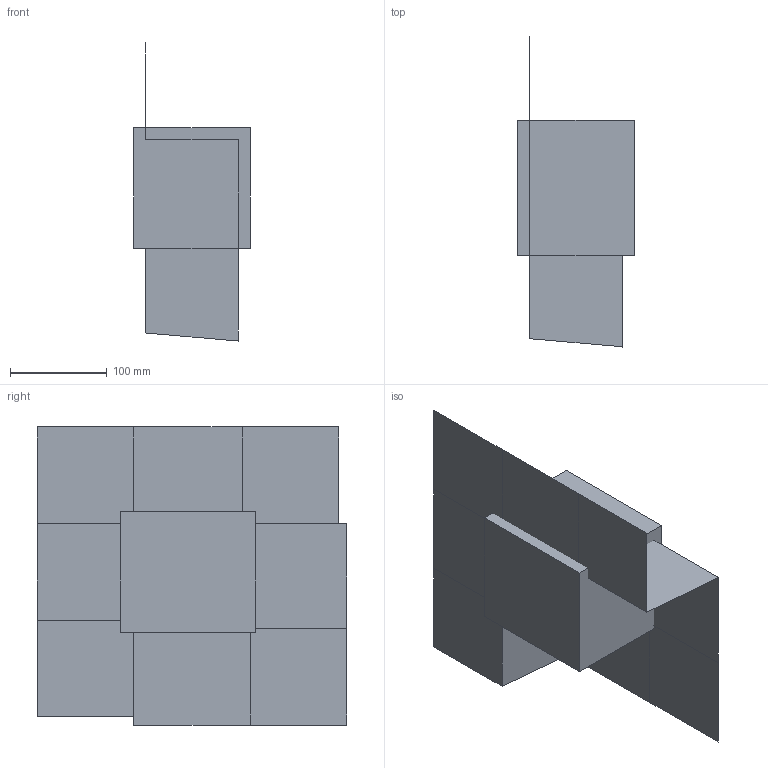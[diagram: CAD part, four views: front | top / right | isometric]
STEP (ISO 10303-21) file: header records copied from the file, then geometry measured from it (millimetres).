
FILE_DESCRIPTION(('CATIA V5 STEP Exchange'),'2;1');
FILE_NAME('C:\_Andres\UNIVERSIDAD\IQS\ASIGNATURAS\DAO\EXF\EXF-15161c\1original\Garcia_Granada_Ej02-moldes_v30.stp','2016-03-04T15:45:47+00:00',('none'),('none'),'CATIA Version 5 Release 20 SP 1 (IN-10)','CATIA V5 STEP AP203','none');
FILE_SCHEMA(('CONFIG_CONTROL_DESIGN'));
Length unit declared in the file: millimetre
Products named in the file (1): Garcia_Granada_Ej02-moldes_v30
Bounding box: 120 x 320.4 x 308.4 mm (x, y, z)
Volume: 4436338.9 mm3; surface area: 433462.7 mm2
Topology: 3 solids, 7 shells, 45 faces, 118 edges, 83 vertices
Faces by surface type: plane 41, cylinder 4
Entity records: 1101 total; most frequent: ORIENTED_EDGE 198, CARTESIAN_POINT 179, DIRECTION 147, EDGE_CURVE 83, VECTOR 73, LINE 73, VERTEX_POINT 56, EDGE_LOOP 49
